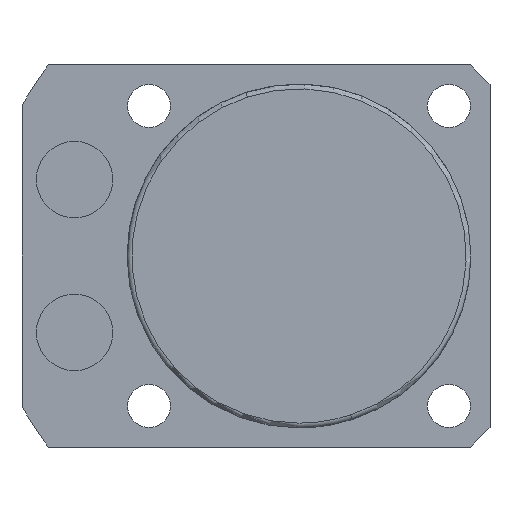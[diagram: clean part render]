
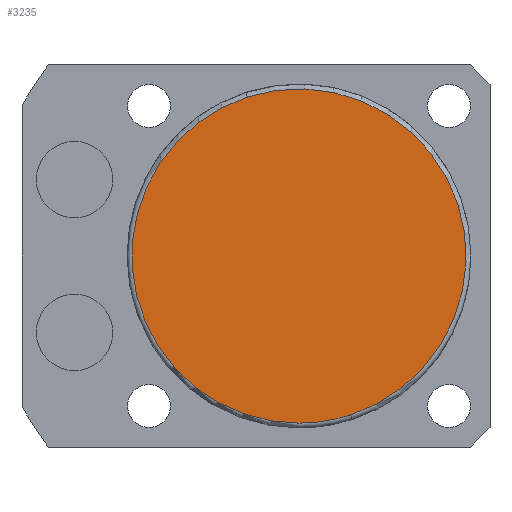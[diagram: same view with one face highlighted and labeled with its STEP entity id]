
A CAD part, front view. The second image highlights one B-rep face of the part: STEP entity #3235.
In plain terms, the highlighted planar face has unit normal (0, -1, 0).
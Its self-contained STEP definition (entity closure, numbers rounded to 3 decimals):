
#3168=CARTESIAN_POINT('',(5.408,-60.5,-16.643));
#3169=VERTEX_POINT('',#3168);
#3187=CARTESIAN_POINT('',(-5.408,-60.5,16.643));
#3188=VERTEX_POINT('',#3187);
#3196=CARTESIAN_POINT('',(0.0,-60.5,0.0));
#3197=DIRECTION('',(0.0,-1.0,0.0));
#3198=DIRECTION('',(0.0,0.0,-1.0));
#3199=AXIS2_PLACEMENT_3D('',#3196,#3197,#3198);
#3200=CIRCLE('',#3199,17.5);
#3201=EDGE_CURVE('no 2345',#3169,#3188,#3200,.T.);
#3211=CARTESIAN_POINT('',(0.0,-60.5,-17.5));
#3212=VERTEX_POINT('',#3211);
#3213=CARTESIAN_POINT('',(0.0,-60.5,0.0));
#3214=DIRECTION('',(0.0,-1.0,0.0));
#3215=DIRECTION('',(0.0,0.0,-1.0));
#3216=AXIS2_PLACEMENT_3D('',#3213,#3214,#3215);
#3217=CIRCLE('',#3216,17.5);
#3218=EDGE_CURVE('no 2354',#3212,#3169,#3217,.T.);
#3219=ORIENTED_EDGE('',*,*,#3218,.T.);
#3220=ORIENTED_EDGE('',*,*,#3201,.T.);
#3221=CARTESIAN_POINT('',(0.0,-60.5,0.0));
#3222=DIRECTION('',(0.0,-1.0,0.0));
#3223=DIRECTION('',(0.0,0.0,-1.0));
#3224=AXIS2_PLACEMENT_3D('',#3221,#3222,#3223);
#3225=CIRCLE('',#3224,17.5);
#3226=EDGE_CURVE('no 2360',#3188,#3212,#3225,.T.);
#3227=ORIENTED_EDGE('',*,*,#3226,.T.);
#3228=EDGE_LOOP('',(#3219,#3220,#3227));
#3229=FACE_OUTER_BOUND('',#3228,.T.);
#3230=CARTESIAN_POINT('',(0.0,-60.5,0.0));
#3231=DIRECTION('',(0.0,-1.0,0.0));
#3232=DIRECTION('',(0.0,0.0,-1.0));
#3233=AXIS2_PLACEMENT_3D('',#3230,#3231,#3232);
#3234=PLANE('',#3233);
#3235=ADVANCED_FACE('no 2347',(#3229),#3234,.T.);
